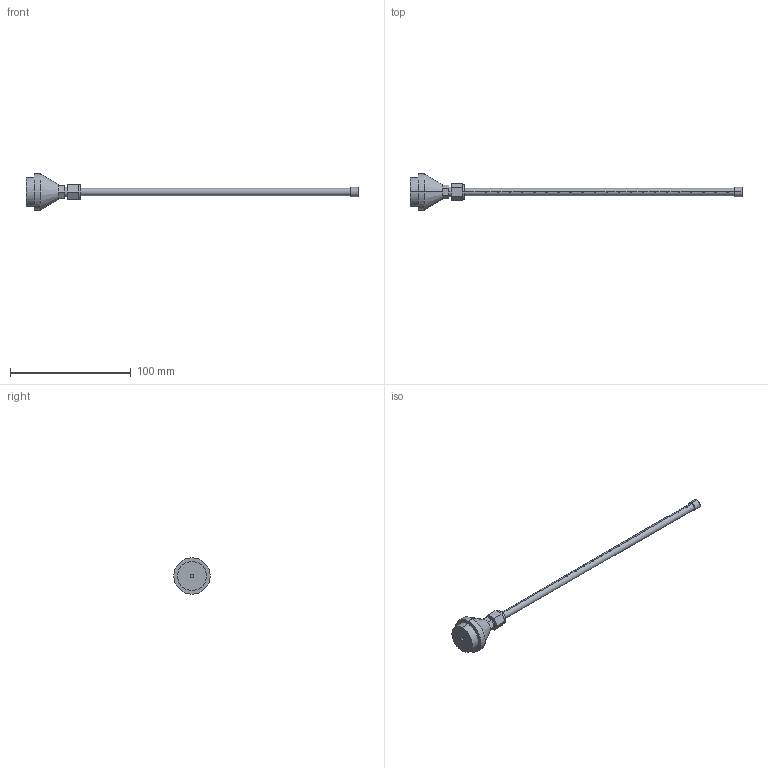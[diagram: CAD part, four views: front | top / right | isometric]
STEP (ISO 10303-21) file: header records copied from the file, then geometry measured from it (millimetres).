
FILE_DESCRIPTION (( 'STEP AP203' ), '1' );
FILE_NAME ('ER-AB20.STEP', '2005-09-05T00:33:10', ( '' ), ( '' ), 'SwSTEP 2.0', 'SolidWorks 2004073', '' );
FILE_SCHEMA (( 'CONFIG_CONTROL_DESIGN' ));
Length unit declared in the file: millimetre
Products named in the file (1): ER-AB20
Bounding box: 275 x 30 x 30 mm (x, y, z)
Volume: 18793.7 mm3; surface area: 10809.9 mm2
Topology: 1 solids, 1 shells, 85 faces, 260 edges, 142 vertices
Faces by surface type: cylinder 56, plane 27, cone 2
Entity records: 3715 total; most frequent: CARTESIAN_POINT 1454, ORIENTED_EDGE 520, DIRECTION 382, EDGE_CURVE 260, VECTOR 142, LINE 142, VERTEX_POINT 142, AXIS2_PLACEMENT_3D 120
